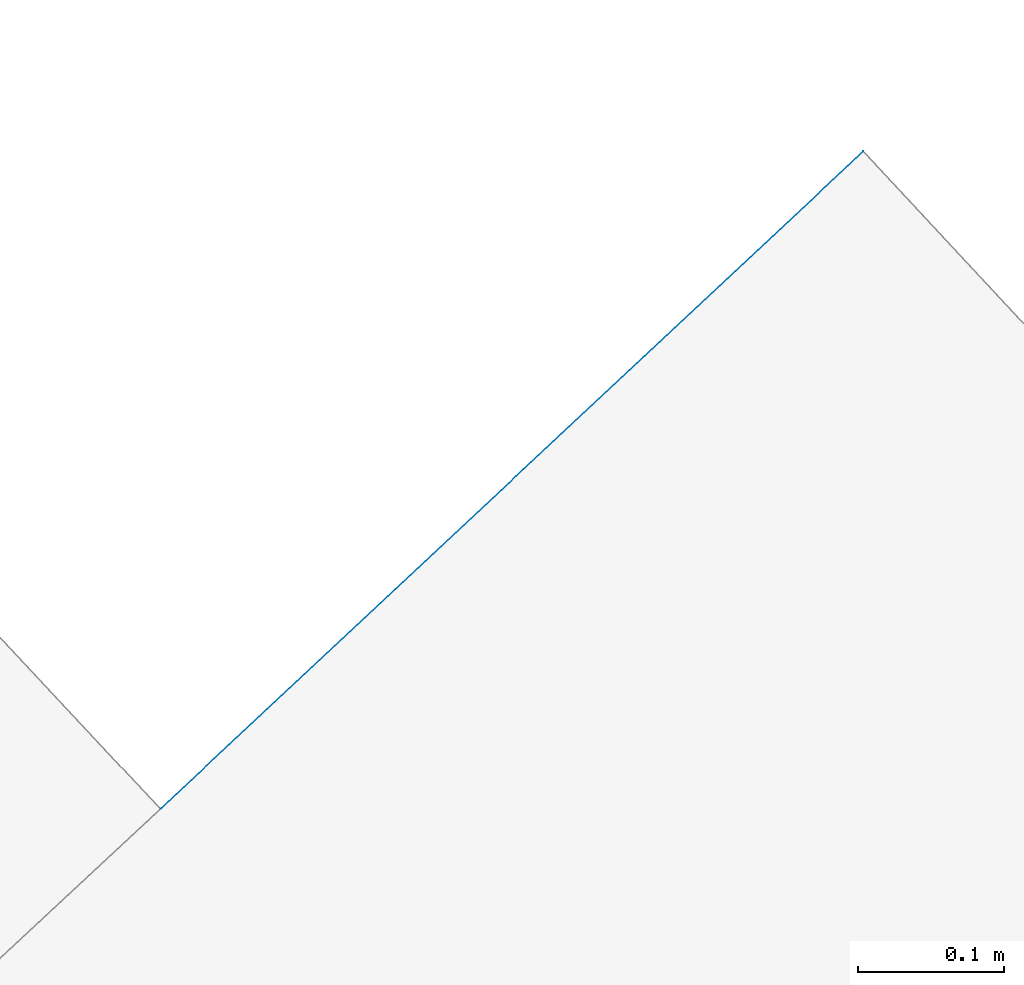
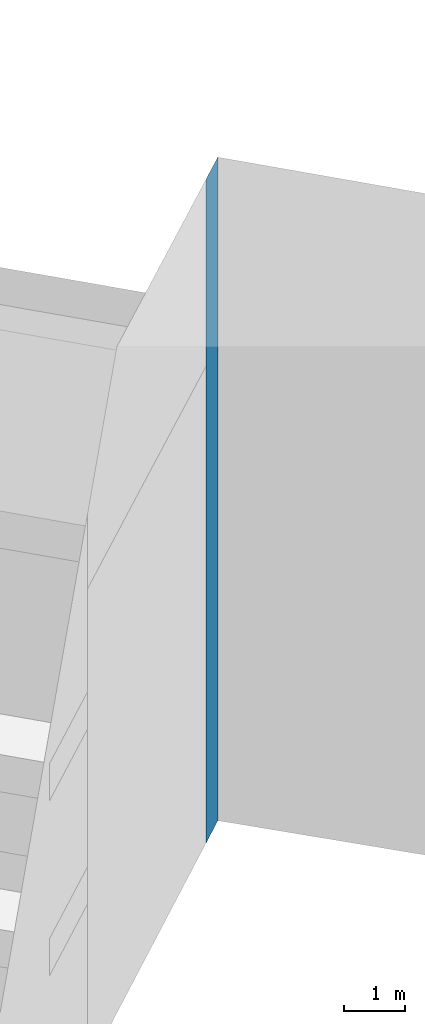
# Not in any storey, part 30 of 136: 1 wall.
"""IFC2X3 building model written with IfcOpenShell, lengths in metres."""

from ifc_helpers import new_model, entity, si_unit, converted_unit, origin, place, context, subcontext, project, spatial, face_set, surface_model, element, save


model = new_model("IFC2X3")

# Units and contexts
model_context = context("Model", 3, precision=1e-05, world=origin())
body_context = subcontext(model_context, "Body", "Model", "MODEL_VIEW")
ifc_project = project(units=[converted_unit("PLANEANGLEUNIT", "DEGREE", entity("IfcRatioMeasure", 0.0174532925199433), si_unit("PLANEANGLEUNIT", "RADIAN"), dimensions=[0, 0, 0, 0, 0, 0, 0]), si_unit("AREAUNIT", "SQUARE_METRE"), si_unit("LENGTHUNIT", "METRE")], contexts=[model_context])

# Site, building
site_placement = place(None, origin())
site = spatial("IfcSite", under=ifc_project, at=site_placement, Name="_site", CompositionType="ELEMENT")
building_placement = place(site_placement, origin())
building = spatial("IfcBuilding", under=site, at=building_placement, Name="_building", CompositionType="ELEMENT")

# Wall
wall_placement = place(building_placement, origin())
element("IfcWall", 1, at=wall_placement, inside=building, Name="Wall", context=body_context, shape_type="SurfaceModel", body=[
    surface_model("IfcFaceBasedSurfaceModel", [(140.97, -3.229, 51.59), (141.45, -2.78, 51.59), (141.45, -2.78, 38.203), (140.97, -3.229, 38.196)], [face_set([[[0, 1, 2, 3]]])]),
])

save(model, "model.ifc")
